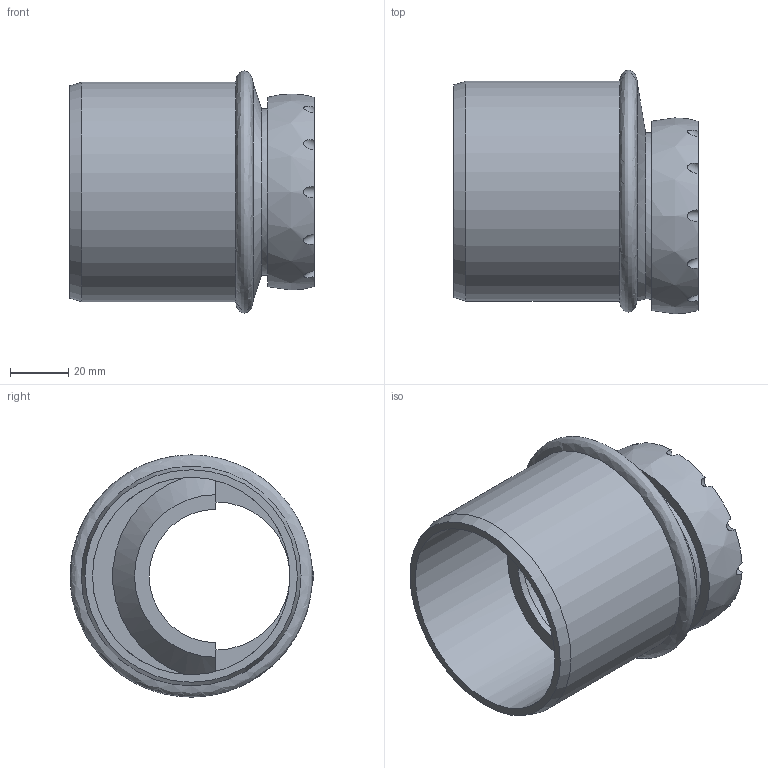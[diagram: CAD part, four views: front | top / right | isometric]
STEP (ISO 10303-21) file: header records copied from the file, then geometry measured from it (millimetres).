
FILE_DESCRIPTION(/* description */ (''),/* implementation_level */ '2;1');
FILE_NAME(/* name */ 'H:\Geberit-Teile\Export\Reduktion_ART\stp\393372.stp',/* time_stamp */ '2017-02-28T08:31:54+01:00',/* author */ ('seihe2'),/* organization */ (''),/* preprocessor_version */ 'ST-DEVELOPER v15.2',/* originating_system */ 'Autodesk Inventor 2014',/* authorisation */ '');
FILE_SCHEMA (('AUTOMOTIVE_DESIGN { 1 0 10303 214 3 1 1 }'));
Length unit declared in the file: millimetre
Products named in the file (1): 393372
Bounding box: 83.6 x 83.44 x 82.9 mm (x, y, z)
Volume: 105853.4 mm3; surface area: 49953.8 mm2
Topology: 1 solids, 1 shells, 37 faces, 95 edges, 63 vertices
Faces by surface type: cylinder 20, plane 12, bspline 3, cone 2
Full cylindrical faces by diameter (mm): 50.7 x1, 51 x1, 57 x1, 60.1 x1, 67.6 x1, 75.2 x1
Entity records: 1673 total; most frequent: CARTESIAN_POINT 732, DIRECTION 192, ORIENTED_EDGE 172, AXIS2_PLACEMENT_3D 88, EDGE_CURVE 86, VERTEX_POINT 61, EDGE_LOOP 49, CIRCLE 40
